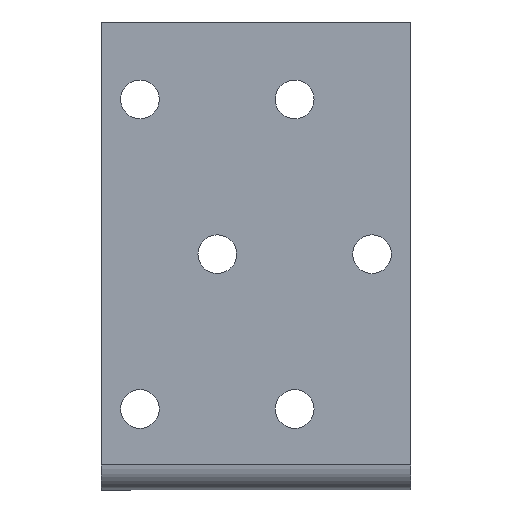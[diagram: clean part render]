
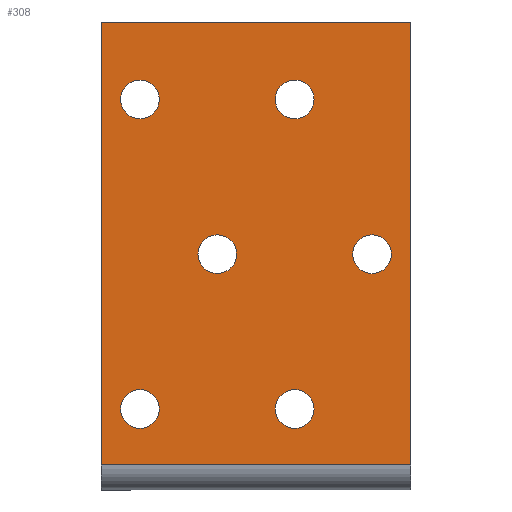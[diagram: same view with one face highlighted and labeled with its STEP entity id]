
A CAD part, front view. The second image highlights one B-rep face of the part: STEP entity #308.
In plain terms, the highlighted planar face has unit normal (0, -1, 0).
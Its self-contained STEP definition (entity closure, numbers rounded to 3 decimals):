
#12 = AXIS2_PLACEMENT_3D ( 'NONE', #470, #964, #75 ) ;
#13 = VERTEX_POINT ( 'NONE', #508 ) ;
#14 = EDGE_CURVE ( 'NONE', #1127, #184, #358, .T. ) ;
#19 = ORIENTED_EDGE ( 'NONE', *, *, #127, .F. ) ;
#24 = CIRCLE ( 'NONE', #264, 2.5 ) ;
#29 = CARTESIAN_POINT ( 'NONE',  ( 5., -2.5, -52.5 ) ) ;
#75 = DIRECTION ( 'NONE',  ( 0., 0., 1. ) ) ;
#85 = CIRCLE ( 'NONE', #724, 2.5 ) ;
#86 = EDGE_CURVE ( 'NONE', #1067, #386, #101, .T. ) ;
#90 = VERTEX_POINT ( 'NONE', #362 ) ;
#97 = VERTEX_POINT ( 'NONE', #955 ) ;
#101 = CIRCLE ( 'NONE', #572, 2.5 ) ;
#103 = EDGE_CURVE ( 'NONE', #151, #413, #898, .T. ) ;
#116 = DIRECTION ( 'NONE',  ( 0., 0., 1. ) ) ;
#123 = CARTESIAN_POINT ( 'NONE',  ( 0., -2.5, -57.225 ) ) ;
#127 = EDGE_CURVE ( 'NONE', #150, #604, #836, .T. ) ;
#129 = ORIENTED_EDGE ( 'NONE', *, *, #103, .T. ) ;
#132 = VERTEX_POINT ( 'NONE', #726 ) ;
#134 = DIRECTION ( 'NONE',  ( 0., 0., 1. ) ) ;
#137 = EDGE_CURVE ( 'NONE', #413, #151, #388, .T. ) ;
#143 = CARTESIAN_POINT ( 'NONE',  ( 25., -2.5, -12.5 ) ) ;
#150 = VERTEX_POINT ( 'NONE', #923 ) ;
#151 = VERTEX_POINT ( 'NONE', #143 ) ;
#174 = DIRECTION ( 'NONE',  ( 0., 0., -1. ) ) ;
#175 = DIRECTION ( 'NONE',  ( 0., 1., 0. ) ) ;
#179 = AXIS2_PLACEMENT_3D ( 'NONE', #857, #175, #1246 ) ;
#184 = VERTEX_POINT ( 'NONE', #905 ) ;
#186 = FACE_BOUND ( 'NONE', #670, .T. ) ;
#198 = CARTESIAN_POINT ( 'NONE',  ( 35., -2.5, -30. ) ) ;
#201 = CARTESIAN_POINT ( 'NONE',  ( 5., -2.5, -10. ) ) ;
#206 = DIRECTION ( 'NONE',  ( 0., 0., 1. ) ) ;
#219 = CARTESIAN_POINT ( 'NONE',  ( 5., -2.5, -50. ) ) ;
#226 = ORIENTED_EDGE ( 'NONE', *, *, #650, .T. ) ;
#230 = DIRECTION ( 'NONE',  ( 0., 0., 1. ) ) ;
#235 = DIRECTION ( 'NONE',  ( 1., 0., 0. ) ) ;
#239 = AXIS2_PLACEMENT_3D ( 'NONE', #973, #1056, #174 ) ;
#262 = EDGE_CURVE ( 'NONE', #1259, #13, #85, .T. ) ;
#264 = AXIS2_PLACEMENT_3D ( 'NONE', #423, #519, #1218 ) ;
#282 = CARTESIAN_POINT ( 'NONE',  ( 40., -2.5, -60.462 ) ) ;
#295 = EDGE_CURVE ( 'NONE', #184, #1127, #1151, .T. ) ;
#299 = EDGE_CURVE ( 'NONE', #604, #97, #533, .T. ) ;
#300 = AXIS2_PLACEMENT_3D ( 'NONE', #201, #785, #206 ) ;
#308 = ADVANCED_FACE ( 'NONE', ( #380, #495, #186, #1197, #888, #599, #688 ), #368, .T. ) ;
#314 = DIRECTION ( 'NONE',  ( 0., 1., 0. ) ) ;
#319 = CARTESIAN_POINT ( 'NONE',  ( 25., -2.5, -47.5 ) ) ;
#326 = AXIS2_PLACEMENT_3D ( 'NONE', #817, #719, #134 ) ;
#358 = CIRCLE ( 'NONE', #1098, 2.5 ) ;
#362 = CARTESIAN_POINT ( 'NONE',  ( 5., -2.5, -7.5 ) ) ;
#368 = PLANE ( 'NONE',  #239 ) ;
#369 = CARTESIAN_POINT ( 'NONE',  ( 25., -2.5, -50. ) ) ;
#380 = FACE_OUTER_BOUND ( 'NONE', #752, .T. ) ;
#386 = VERTEX_POINT ( 'NONE', #1165 ) ;
#388 = CIRCLE ( 'NONE', #632, 2.5 ) ;
#390 = ORIENTED_EDGE ( 'NONE', *, *, #137, .T. ) ;
#400 = CARTESIAN_POINT ( 'NONE',  ( 35., -2.5, -30. ) ) ;
#413 = VERTEX_POINT ( 'NONE', #1150 ) ;
#423 = CARTESIAN_POINT ( 'NONE',  ( 15., -2.5, -30. ) ) ;
#426 = CARTESIAN_POINT ( 'NONE',  ( 15., -2.5, -27.5 ) ) ;
#427 = DIRECTION ( 'NONE',  ( 0., 1., 0. ) ) ;
#431 = CARTESIAN_POINT ( 'NONE',  ( 15., -2.5, -30. ) ) ;
#448 = ORIENTED_EDGE ( 'NONE', *, *, #615, .T. ) ;
#452 = VECTOR ( 'NONE', #235, 1000. ) ;
#453 = DIRECTION ( 'NONE',  ( 0., 0., 1. ) ) ;
#470 = CARTESIAN_POINT ( 'NONE',  ( 5., -2.5, -50. ) ) ;
#475 = EDGE_CURVE ( 'NONE', #386, #1067, #1231, .T. ) ;
#493 = CIRCLE ( 'NONE', #496, 2.5 ) ;
#495 = FACE_BOUND ( 'NONE', #930, .T. ) ;
#496 = AXIS2_PLACEMENT_3D ( 'NONE', #400, #1082, #1279 ) ;
#501 = CARTESIAN_POINT ( 'NONE',  ( 0., -2.5, 0. ) ) ;
#508 = CARTESIAN_POINT ( 'NONE',  ( 35., -2.5, -27.5 ) ) ;
#510 = DIRECTION ( 'NONE',  ( 1., 0., 0. ) ) ;
#511 = ORIENTED_EDGE ( 'NONE', *, *, #262, .T. ) ;
#519 = DIRECTION ( 'NONE',  ( 0., 1., 0. ) ) ;
#520 = ORIENTED_EDGE ( 'NONE', *, *, #770, .T. ) ;
#530 = CARTESIAN_POINT ( 'NONE',  ( 25., -2.5, -10. ) ) ;
#533 = LINE ( 'NONE', #282, #640 ) ;
#551 = ORIENTED_EDGE ( 'NONE', *, *, #299, .F. ) ;
#568 = DIRECTION ( 'NONE',  ( 0., 0., -1. ) ) ;
#572 = AXIS2_PLACEMENT_3D ( 'NONE', #369, #951, #453 ) ;
#583 = VECTOR ( 'NONE', #510, 1000. ) ;
#599 = FACE_BOUND ( 'NONE', #1003, .T. ) ;
#604 = VERTEX_POINT ( 'NONE', #811 ) ;
#615 = EDGE_CURVE ( 'NONE', #1036, #97, #1119, .T. ) ;
#619 = CARTESIAN_POINT ( 'NONE',  ( 0., -2.5, -57.225 ) ) ;
#631 = ORIENTED_EDGE ( 'NONE', *, *, #475, .T. ) ;
#632 = AXIS2_PLACEMENT_3D ( 'NONE', #530, #427, #230 ) ;
#640 = VECTOR ( 'NONE', #568, 1000. ) ;
#650 = EDGE_CURVE ( 'NONE', #1105, #132, #24, .T. ) ;
#658 = EDGE_CURVE ( 'NONE', #90, #835, #810, .T. ) ;
#670 = EDGE_LOOP ( 'NONE', ( #226, #1043 ) ) ;
#688 = FACE_BOUND ( 'NONE', #1024, .T. ) ;
#719 = DIRECTION ( 'NONE',  ( 0., 1., 0. ) ) ;
#724 = AXIS2_PLACEMENT_3D ( 'NONE', #198, #1278, #873 ) ;
#726 = CARTESIAN_POINT ( 'NONE',  ( 15., -2.5, -32.5 ) ) ;
#752 = EDGE_LOOP ( 'NONE', ( #551, #19, #991, #448 ) ) ;
#770 = EDGE_CURVE ( 'NONE', #835, #90, #1215, .T. ) ;
#785 = DIRECTION ( 'NONE',  ( 0., 1., 0. ) ) ;
#786 = EDGE_LOOP ( 'NONE', ( #1243, #1224 ) ) ;
#788 = ORIENTED_EDGE ( 'NONE', *, *, #658, .T. ) ;
#789 = EDGE_CURVE ( 'NONE', #13, #1259, #493, .T. ) ;
#793 = CARTESIAN_POINT ( 'NONE',  ( 5., -2.5, -12.5 ) ) ;
#810 = CIRCLE ( 'NONE', #326, 2.5 ) ;
#811 = CARTESIAN_POINT ( 'NONE',  ( 40., -2.5, 0. ) ) ;
#813 = CIRCLE ( 'NONE', #1144, 2.5 ) ;
#817 = CARTESIAN_POINT ( 'NONE',  ( 5., -2.5, -10. ) ) ;
#823 = CARTESIAN_POINT ( 'NONE',  ( 35., -2.5, -32.5 ) ) ;
#835 = VERTEX_POINT ( 'NONE', #793 ) ;
#836 = LINE ( 'NONE', #1022, #452 ) ;
#857 = CARTESIAN_POINT ( 'NONE',  ( 25., -2.5, -10. ) ) ;
#873 = DIRECTION ( 'NONE',  ( 0., 0., 1. ) ) ;
#888 = FACE_BOUND ( 'NONE', #1159, .T. ) ;
#898 = CIRCLE ( 'NONE', #179, 2.5 ) ;
#899 = EDGE_CURVE ( 'NONE', #1036, #150, #1149, .T. ) ;
#904 = ORIENTED_EDGE ( 'NONE', *, *, #789, .T. ) ;
#905 = CARTESIAN_POINT ( 'NONE',  ( 5., -2.5, -47.5 ) ) ;
#923 = CARTESIAN_POINT ( 'NONE',  ( 0., -2.5, 0. ) ) ;
#930 = EDGE_LOOP ( 'NONE', ( #904, #511 ) ) ;
#943 = CARTESIAN_POINT ( 'NONE',  ( 25., -2.5, -50. ) ) ;
#948 = DIRECTION ( 'NONE',  ( 0., 0., 1. ) ) ;
#951 = DIRECTION ( 'NONE',  ( 0., 1., 0. ) ) ;
#955 = CARTESIAN_POINT ( 'NONE',  ( 40., -2.5, -57.225 ) ) ;
#960 = DIRECTION ( 'NONE',  ( 0., 1., 0. ) ) ;
#964 = DIRECTION ( 'NONE',  ( 0., 1., 0. ) ) ;
#973 = CARTESIAN_POINT ( 'NONE',  ( 0., -2.5, 0. ) ) ;
#991 = ORIENTED_EDGE ( 'NONE', *, *, #899, .F. ) ;
#1003 = EDGE_LOOP ( 'NONE', ( #788, #520 ) ) ;
#1011 = DIRECTION ( 'NONE',  ( 0., 0., 1. ) ) ;
#1022 = CARTESIAN_POINT ( 'NONE',  ( 0., -2.5, 0. ) ) ;
#1024 = EDGE_LOOP ( 'NONE', ( #390, #129 ) ) ;
#1036 = VERTEX_POINT ( 'NONE', #619 ) ;
#1043 = ORIENTED_EDGE ( 'NONE', *, *, #1261, .T. ) ;
#1056 = DIRECTION ( 'NONE',  ( 0., -1., 0. ) ) ;
#1067 = VERTEX_POINT ( 'NONE', #319 ) ;
#1080 = ORIENTED_EDGE ( 'NONE', *, *, #86, .T. ) ;
#1082 = DIRECTION ( 'NONE',  ( 0., 1., 0. ) ) ;
#1098 = AXIS2_PLACEMENT_3D ( 'NONE', #219, #314, #1011 ) ;
#1105 = VERTEX_POINT ( 'NONE', #426 ) ;
#1119 = LINE ( 'NONE', #123, #583 ) ;
#1121 = AXIS2_PLACEMENT_3D ( 'NONE', #943, #1242, #948 ) ;
#1127 = VERTEX_POINT ( 'NONE', #29 ) ;
#1144 = AXIS2_PLACEMENT_3D ( 'NONE', #431, #960, #1152 ) ;
#1149 = LINE ( 'NONE', #501, #1282 ) ;
#1150 = CARTESIAN_POINT ( 'NONE',  ( 25., -2.5, -7.5 ) ) ;
#1151 = CIRCLE ( 'NONE', #12, 2.5 ) ;
#1152 = DIRECTION ( 'NONE',  ( 0., 0., 1. ) ) ;
#1159 = EDGE_LOOP ( 'NONE', ( #1080, #631 ) ) ;
#1165 = CARTESIAN_POINT ( 'NONE',  ( 25., -2.5, -52.5 ) ) ;
#1197 = FACE_BOUND ( 'NONE', #786, .T. ) ;
#1215 = CIRCLE ( 'NONE', #300, 2.5 ) ;
#1218 = DIRECTION ( 'NONE',  ( 0., 0., 1. ) ) ;
#1224 = ORIENTED_EDGE ( 'NONE', *, *, #14, .T. ) ;
#1231 = CIRCLE ( 'NONE', #1121, 2.5 ) ;
#1242 = DIRECTION ( 'NONE',  ( 0., 1., 0. ) ) ;
#1243 = ORIENTED_EDGE ( 'NONE', *, *, #295, .T. ) ;
#1246 = DIRECTION ( 'NONE',  ( 0., 0., 1. ) ) ;
#1259 = VERTEX_POINT ( 'NONE', #823 ) ;
#1261 = EDGE_CURVE ( 'NONE', #132, #1105, #813, .T. ) ;
#1278 = DIRECTION ( 'NONE',  ( 0., 1., 0. ) ) ;
#1279 = DIRECTION ( 'NONE',  ( 0., 0., 1. ) ) ;
#1282 = VECTOR ( 'NONE', #116, 1000. ) ;
